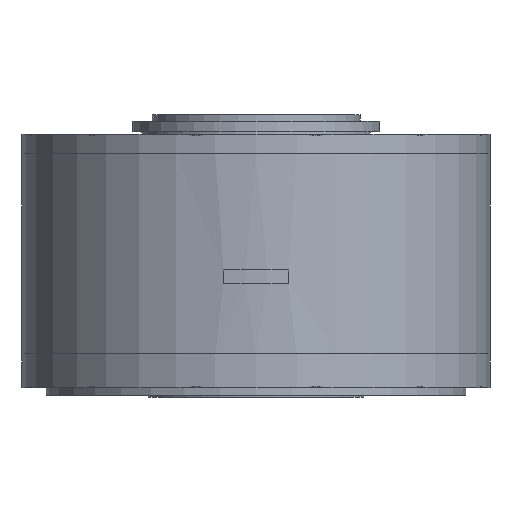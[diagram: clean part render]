
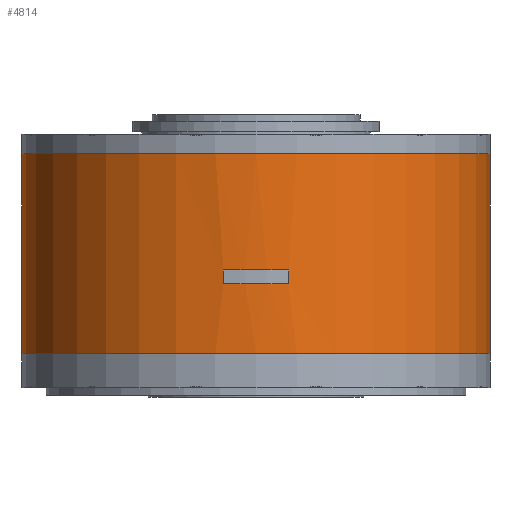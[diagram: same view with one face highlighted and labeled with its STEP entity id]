
A CAD part, front view. The second image highlights one B-rep face of the part: STEP entity #4814.
In plain terms, the highlighted cylindrical face has radius 180 mm (diameter 360 mm), a partial arc.
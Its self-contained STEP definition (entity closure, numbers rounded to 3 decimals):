
#118 = VERTEX_POINT ( 'NONE', #14256 ) ;
#231 = VERTEX_POINT ( 'NONE', #445 ) ;
#237 = VERTEX_POINT ( 'NONE', #441 ) ;
#238 = VERTEX_POINT ( 'NONE', #442 ) ;
#441 = CARTESIAN_POINT ( 'NONE',  ( 180., 0., 179.9 ) ) ;
#442 = CARTESIAN_POINT ( 'NONE',  ( 180., 0., 26.1 ) ) ;
#445 = CARTESIAN_POINT ( 'NONE',  ( -180., 0., 179.9 ) ) ;
#1153 = ORIENTED_EDGE ( 'NONE', *, *, #4353, .F. ) ;
#1154 = ORIENTED_EDGE ( 'NONE', *, *, #2227, .F. ) ;
#1155 = ORIENTED_EDGE ( 'NONE', *, *, #4340, .T. ) ;
#1156 = ORIENTED_EDGE ( 'NONE', *, *, #2229, .F. ) ;
#1157 = ORIENTED_EDGE ( 'NONE', *, *, #2228, .F. ) ;
#1158 = ORIENTED_EDGE ( 'NONE', *, *, #2230, .F. ) ;
#1159 = ORIENTED_EDGE ( 'NONE', *, *, #2231, .F. ) ;
#1160 = ORIENTED_EDGE ( 'NONE', *, *, #2226, .F. ) ;
#2226 = EDGE_CURVE ( 'NONE', #14833, #14254, #6479, .T. ) ;
#2227 = EDGE_CURVE ( 'NONE', #238, #118, #6485, .T. ) ;
#2228 = EDGE_CURVE ( 'NONE', #14229, #14833, #6486, .T. ) ;
#2229 = EDGE_CURVE ( 'NONE', #231, #237, #6488, .T. ) ;
#2230 = EDGE_CURVE ( 'NONE', #14244, #14229, #6487, .T. ) ;
#2231 = EDGE_CURVE ( 'NONE', #14254, #14244, #6489, .T. ) ;
#3012 = CARTESIAN_POINT ( 'NONE',  ( -25., -178.255, 90.5 ) ) ;
#4340 = EDGE_CURVE ( 'NONE', #238, #237, #5813, .T. ) ;
#4353 = EDGE_CURVE ( 'NONE', #118, #231, #5823, .T. ) ;
#4814 = ADVANCED_FACE ( 'NONE', ( #9228, #9229 ), #9235, .T. ) ;
#5195 = CARTESIAN_POINT ( 'NONE',  ( 180., 0., 0. ) ) ;
#5234 = DIRECTION ( 'NONE',  ( 0., 0., 1. ) ) ;
#5309 = CARTESIAN_POINT ( 'NONE',  ( -180., 0., 0. ) ) ;
#5313 = DIRECTION ( 'NONE',  ( 0., 0., 1. ) ) ;
#5813 = LINE ( 'NONE', #5195, #5814 ) ;
#5814 = VECTOR ( 'NONE', #5234, 1000. ) ;
#5823 = LINE ( 'NONE', #5309, #5829 ) ;
#5829 = VECTOR ( 'NONE', #5313, 1000. ) ;
#5888 = AXIS2_PLACEMENT_3D ( 'NONE', #8824, #8831, #8832 ) ;
#5890 = AXIS2_PLACEMENT_3D ( 'NONE', #8827, #8828, #8829 ) ;
#5891 = AXIS2_PLACEMENT_3D ( 'NONE', #8833, #8834, #8835 ) ;
#5893 = AXIS2_PLACEMENT_3D ( 'NONE', #8838, #8839, #8840 ) ;
#6390 = AXIS2_PLACEMENT_3D ( 'NONE', #10468, #10460, #10461 ) ;
#6479 = LINE ( 'NONE', #8825, #6480 ) ;
#6480 = VECTOR ( 'NONE', #8826, 1000. ) ;
#6482 = VECTOR ( 'NONE', #8837, 1000. ) ;
#6485 = CIRCLE ( 'NONE', #5890, 180. ) ;
#6486 = CIRCLE ( 'NONE', #5888, 180. ) ;
#6487 = LINE ( 'NONE', #8830, #6482 ) ;
#6488 = CIRCLE ( 'NONE', #5891, 180. ) ;
#6489 = CIRCLE ( 'NONE', #5893, 180. ) ;
#6646 = EDGE_LOOP ( 'NONE', ( #1157, #1158, #1159, #1160 ) ) ;
#6667 = EDGE_LOOP ( 'NONE', ( #1153, #1154, #1155, #1156 ) ) ;
#8824 = CARTESIAN_POINT ( 'NONE',  ( 0., 0., 90.5 ) ) ;
#8825 = CARTESIAN_POINT ( 'NONE',  ( -25., -178.255, 0. ) ) ;
#8826 = DIRECTION ( 'NONE',  ( 0., 0., -1. ) ) ;
#8827 = CARTESIAN_POINT ( 'NONE',  ( 0., 0., 26.1 ) ) ;
#8828 = DIRECTION ( 'NONE',  ( 0., 0., -1. ) ) ;
#8829 = DIRECTION ( 'NONE',  ( -1., 0., 0. ) ) ;
#8830 = CARTESIAN_POINT ( 'NONE',  ( 25., -178.255, 0. ) ) ;
#8831 = DIRECTION ( 'NONE',  ( 0., 0., -1. ) ) ;
#8832 = DIRECTION ( 'NONE',  ( -1., 0., 0. ) ) ;
#8833 = CARTESIAN_POINT ( 'NONE',  ( 0., 0., 179.9 ) ) ;
#8834 = DIRECTION ( 'NONE',  ( 0., 0., 1. ) ) ;
#8835 = DIRECTION ( 'NONE',  ( 1., 0., 0. ) ) ;
#8837 = DIRECTION ( 'NONE',  ( 0., 0., 1. ) ) ;
#8838 = CARTESIAN_POINT ( 'NONE',  ( 0., 0., 80. ) ) ;
#8839 = DIRECTION ( 'NONE',  ( 0., 0., 1. ) ) ;
#8840 = DIRECTION ( 'NONE',  ( 1., 0., 0. ) ) ;
#9228 = FACE_OUTER_BOUND ( 'NONE', #6667, .T. ) ;
#9229 = FACE_BOUND ( 'NONE', #6646, .T. ) ;
#9235 = CYLINDRICAL_SURFACE ( 'NONE', #6390, 180. ) ;
#10460 = DIRECTION ( 'NONE',  ( 0., 0., 1. ) ) ;
#10461 = DIRECTION ( 'NONE',  ( 1., 0., 0. ) ) ;
#10468 = CARTESIAN_POINT ( 'NONE',  ( 0., 0., 0. ) ) ;
#12901 = CARTESIAN_POINT ( 'NONE',  ( 25., -178.255, 90.5 ) ) ;
#12915 = CARTESIAN_POINT ( 'NONE',  ( 25., -178.255, 80. ) ) ;
#12925 = CARTESIAN_POINT ( 'NONE',  ( -25., -178.255, 80. ) ) ;
#14229 = VERTEX_POINT ( 'NONE', #12901 ) ;
#14244 = VERTEX_POINT ( 'NONE', #12915 ) ;
#14254 = VERTEX_POINT ( 'NONE', #12925 ) ;
#14256 = CARTESIAN_POINT ( 'NONE',  ( -180., 0., 26.1 ) ) ;
#14833 = VERTEX_POINT ( 'NONE', #3012 ) ;
